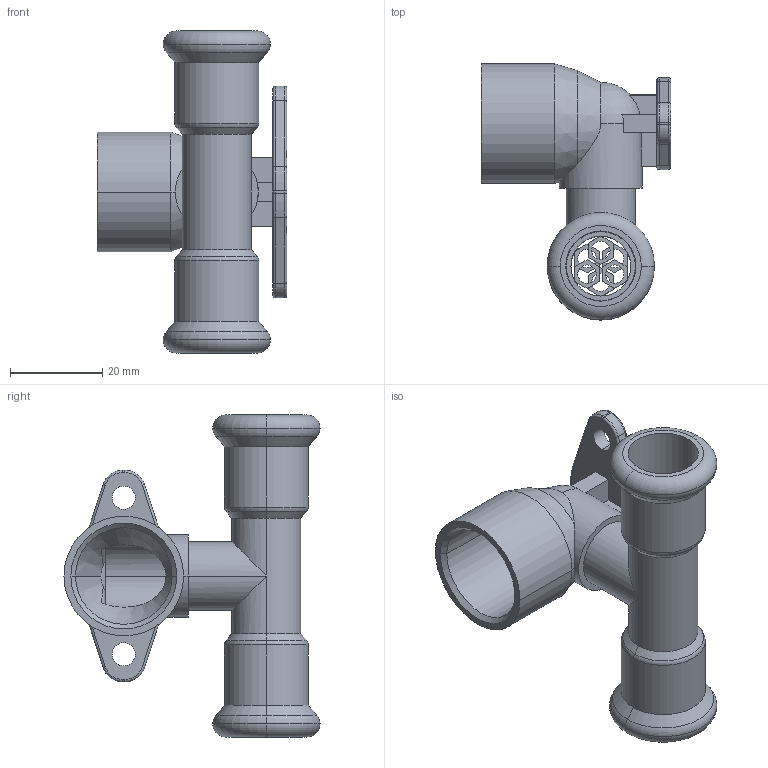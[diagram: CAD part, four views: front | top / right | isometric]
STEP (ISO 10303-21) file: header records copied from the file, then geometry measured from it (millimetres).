
FILE_DESCRIPTION(('OneSpaceDesigner STEP Export'),'2;1');
FILE_NAME('R2719 15xrp1-2x15.stp','2010-06-10T12:45:47',(''),(''),'OneSpace Designer STEP processor for AP214 (Solid Model)','OneSpace Modeling 15.00A 14-Mar-2007 (C) CoCreate Software GmbH','');
FILE_SCHEMA(('AUTOMOTIVE_DESIGN { 1 0 10303 214 1 1 1 1 }'));
Length unit declared in the file: millimetre
Products named in the file (2): R2719_15xrp1-2x15
Assembly tree (1 placements, depth 2):
  R2719_15xrp1-2x15
    R2719_15xrp1-2x15
Bounding box: 41.2 x 55.65 x 70 mm (x, y, z)
Volume: 14679.7 mm3; surface area: 16075.1 mm2
Topology: 2 solids, 2 shells, 210 faces, 512 edges, 317 vertices
Faces by surface type: plane 87, cylinder 76, torus 28, cone 16, bspline 2, sphere 1
Entity records: 7964 total; most frequent: CARTESIAN_POINT 3239, ORIENTED_EDGE 1026, DIRECTION 916, EDGE_CURVE 511, AXIS2_PLACEMENT_3D 321, VERTEX_POINT 317, VECTOR 274, LINE 274
